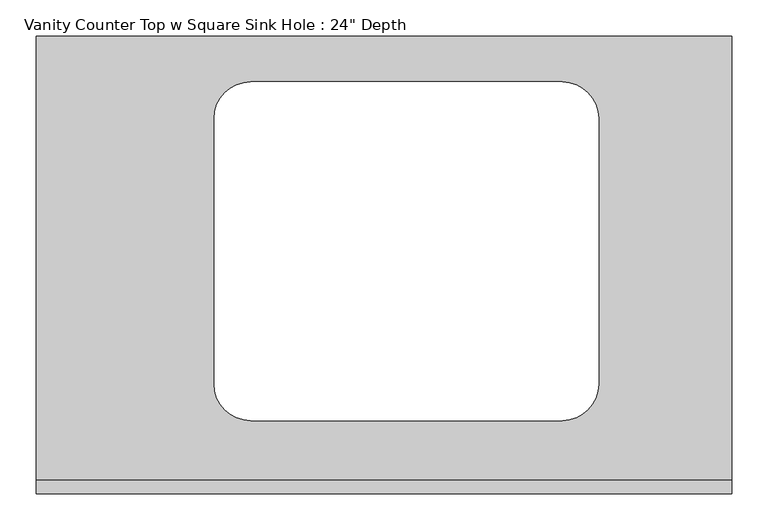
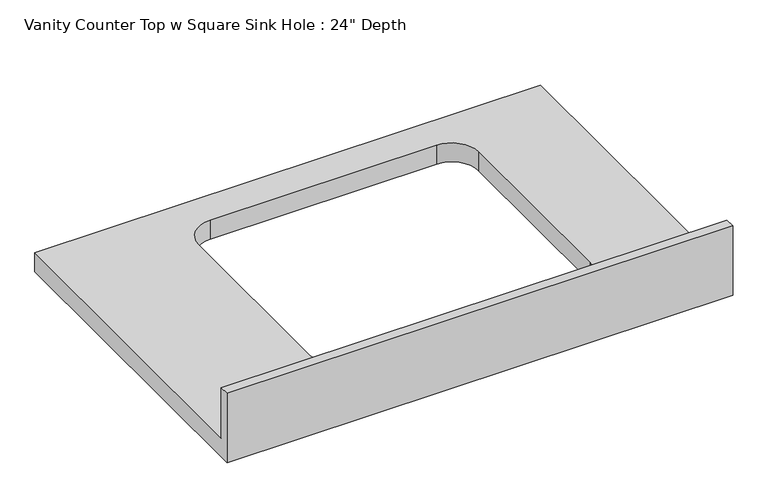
"""IFC4 building model written with IfcOpenShell, lengths in millimetres: furniture geometry."""

from ifc_helpers import new_model, si_unit, frame, origin, place, context, project, spatial, polyline, circle_curve, source, transform, mapped, element, save
from ifc_brep_helpers import plane_surface, revolved_surface, advanced_brep


def furniture_ed97e21d(model_context):
    return source(origin(), model_context, "Body", "AdvancedBrep", [
        advanced_brep(
        [(-1268.7247951, 635.0, 787.4), (-1268.7247951, 19.05, 787.4), (-303.5247951, 19.05, 787.4), (-303.5247951, 635.0, 787.4), (-1021.7811319, 152.4, 787.4), (-1021.7811319, 520.7, 787.4), (-970.9811319, 571.5, 787.4), (-539.1811319, 571.5, 787.4), (-488.3811319, 520.7, 787.4), (-488.3811319, 152.4, 787.4), (-539.1811319, 101.6, 787.4), (-970.9811319, 101.6, 787.4), (-303.5247951, 0.0, 749.3), (-1268.7247951, 0.0, 749.3), (-1268.7247951, 635.0, 749.3), (-303.5247951, 635.0, 749.3), (-970.9811319, 101.6, 749.3), (-539.1811319, 101.6, 749.3), (-488.3811319, 152.4, 749.3), (-488.3811319, 520.7, 749.3), (-539.1811319, 571.5, 749.3), (-970.9811319, 571.5, 749.3), (-1021.7811319, 520.7, 749.3), (-1021.7811319, 152.4, 749.3), (-303.5247951, 0.0, 889.0), (-1268.7247951, 0.0, 889.0), (-1268.7247951, 19.05, 889.0), (-303.5247951, 19.05, 889.0)],
        [
            (0, 1),
            (1, 2),
            (2, 3),
            (3, 0),
            (4, 5),
            (5, 6, circle_curve(frame((-970.9811319, 520.7, 787.4), z_axis=(0.0, 0.0, -1.0), x_axis=(1.0, 0.0, 0.0)), 50.8)),
            (6, 7),
            (7, 8, circle_curve(frame((-539.1811319, 520.7, 787.4), z_axis=(0.0, 0.0, -1.0), x_axis=(1.0, 0.0, 0.0)), 50.8)),
            (8, 9),
            (9, 10, circle_curve(frame((-539.1811319, 152.4, 787.4), z_axis=(0.0, 0.0, -1.0), x_axis=(1.0, 0.0, 0.0)), 50.8)),
            (10, 11),
            (11, 4, circle_curve(frame((-970.9811319, 152.4, 787.4), z_axis=(0.0, 0.0, -1.0), x_axis=(1.0, 0.0, 0.0)), 50.8)),
            (12, 13),
            (13, 14),
            (14, 15),
            (15, 12),
            (16, 17),
            (17, 18, circle_curve(frame((-539.1811319, 152.4, 749.3), z_axis=(0.0, 0.0, 1.0), x_axis=(1.0, 0.0, 0.0)), 50.8)),
            (18, 19),
            (19, 20, circle_curve(frame((-539.1811319, 520.7, 749.3), z_axis=(0.0, 0.0, 1.0), x_axis=(1.0, 0.0, 0.0)), 50.8)),
            (20, 21),
            (21, 22, circle_curve(frame((-970.9811319, 520.7, 749.3), z_axis=(0.0, 0.0, 1.0), x_axis=(1.0, 0.0, 0.0)), 50.8)),
            (22, 23),
            (23, 16, circle_curve(frame((-970.9811319, 152.4, 749.3), z_axis=(0.0, 0.0, 1.0), x_axis=(1.0, 0.0, 0.0)), 50.8)),
            (12, 24),
            (24, 25),
            (25, 13),
            (25, 26),
            (26, 1),
            (0, 14),
            (3, 15),
            (2, 27),
            (27, 24),
            (27, 26),
            (11, 16),
            (23, 4),
            (22, 5),
            (21, 6),
            (20, 7),
            (19, 8),
            (18, 9),
            (17, 10),
        ],
        [
            plane_surface(frame((-1268.7247951, 0.0, 787.4), z_axis=(0.0, 0.0, 1.0), x_axis=(-1.0, 0.0, 0.0))),
            plane_surface(frame((-1268.7247951, 0.0, 749.3), z_axis=(0.0, 0.0, -1.0), x_axis=(1.0, 0.0, 0.0))),
            plane_surface(frame((-303.5247951, 0.0, 787.4), z_axis=(0.0, -1.0, 0.0), x_axis=(0.0, 0.0, -1.0))),
            plane_surface(frame((-1268.7247951, 0.0, 787.4), z_axis=(-1.0, 0.0, 0.0), x_axis=(0.0, 0.0, -1.0))),
            plane_surface(frame((-1268.7247951, 635.0, 787.4), z_axis=(0.0, 1.0, 0.0), x_axis=(0.0, 0.0, -1.0))),
            plane_surface(frame((-303.5247951, 635.0, 787.4), z_axis=(1.0, 0.0, 0.0), x_axis=(0.0, 0.0, -1.0))),
            plane_surface(frame((-1268.7247951, 0.0, 889.0), z_axis=(0.0, 0.0, 1.0), x_axis=(0.0, 1.0, 0.0))),
            plane_surface(frame((-1268.7247951, 19.05, 889.0), z_axis=(0.0, 1.0, 0.0), x_axis=(0.0, 0.0, -1.0))),
            revolved_surface(polyline([(-920.1811319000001, 152.4, 787.4), (-920.1811319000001, 152.4, 749.3)]), (-970.9811319, 152.4, 749.3), (0.0, 0.0, 1.0)),
            plane_surface(frame((-1021.7811319, 152.4, 787.4), z_axis=(1.0, 0.0, 0.0), x_axis=(0.0, 0.0, -1.0))),
            revolved_surface(polyline([(-920.1811319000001, 520.7, 787.4), (-920.1811319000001, 520.7, 749.3)]), (-970.9811319, 520.7, 749.3), (0.0, 0.0, 1.0)),
            plane_surface(frame((-970.9811319, 571.5, 787.4), z_axis=(0.0, -1.0, 0.0), x_axis=(0.0, 0.0, -1.0))),
            revolved_surface(polyline([(-488.38113189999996, 520.7, 787.4), (-488.38113189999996, 520.7, 749.3)]), (-539.1811319, 520.7, 749.3), (0.0, 0.0, 1.0)),
            plane_surface(frame((-488.3811319, 520.7, 787.4), z_axis=(-1.0, 0.0, 0.0), x_axis=(0.0, 0.0, -1.0))),
            revolved_surface(polyline([(-488.38113189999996, 152.4, 787.4), (-488.38113189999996, 152.4, 749.3)]), (-539.1811319, 152.4, 749.3), (0.0, 0.0, 1.0)),
            plane_surface(frame((-539.1811319, 101.6, 787.4), z_axis=(0.0, 1.0, 0.0), x_axis=(0.0, 0.0, -1.0))),
        ],
        [
            (0, [[1, 2, 3, 4], [5, 6, 7, 8, 9, 10, 11, 12]]),
            (1, [[13, 14, 15, 16], [17, 18, 19, 20, 21, 22, 23, 24]]),
            (2, [[25, 26, 27, -13]]),
            (3, [[-27, 28, 29, -1, 30, -14]]),
            (4, [[31, -15, -30, -4]]),
            (5, [[-31, -3, 32, 33, -25, -16]]),
            (6, [[-26, -33, 34, -28]]),
            (7, [[-32, -2, -29, -34]]),
            (8, [[-12, 35, -24, 36]]),
            (9, [[-23, 37, -5, -36]]),
            (10, [[-22, 38, -6, -37]]),
            (11, [[-21, 39, -7, -38]]),
            (12, [[-20, 40, -8, -39]]),
            (13, [[-19, 41, -9, -40]]),
            (14, [[-18, 42, -10, -41]]),
            (15, [[-11, -42, -17, -35]]),
        ],
    ),
    ])


if __name__ == "__main__":
    model = new_model("IFC4")
    model_context = context("Model", 3, world=origin())
    ifc_project = project(units=[si_unit("LENGTHUNIT", "METRE", prefix="MILLI")], contexts=[model_context])
    site = spatial("IfcSite", under=ifc_project)
    building = spatial("IfcBuilding", under=site)
    placement = place(None, origin())
    furniture_shape = furniture_ed97e21d(model_context)
    element("IfcFurniture", 1, ObjectType="Vanity Counter Top w Square Sink Hole : 24\" Depth", at=placement, inside=building, context=model_context, shape_type="MappedRepresentation", body=[
        mapped(furniture_shape, transform((0.0, 0.0, 0.0), x_axis=(1.0, 0.0, 0.0), y_axis=(0.0, 1.0, 0.0), z_axis=(0.0, 0.0, 1.0))),
    ])
    save(model, "model.ifc")
